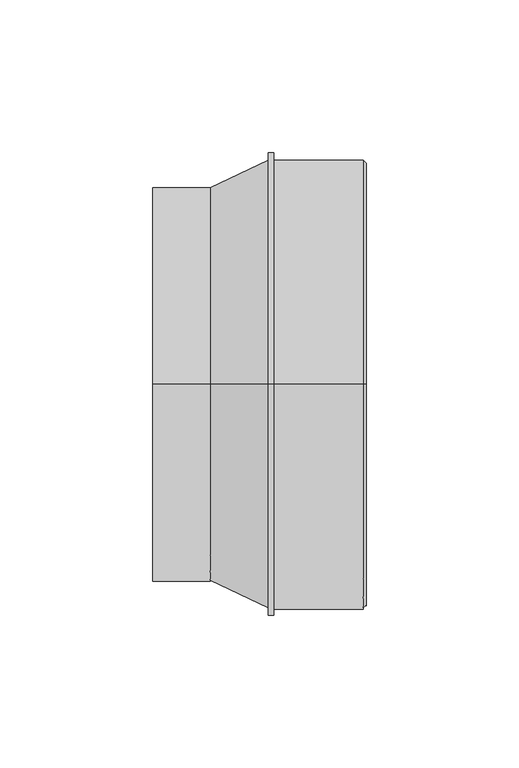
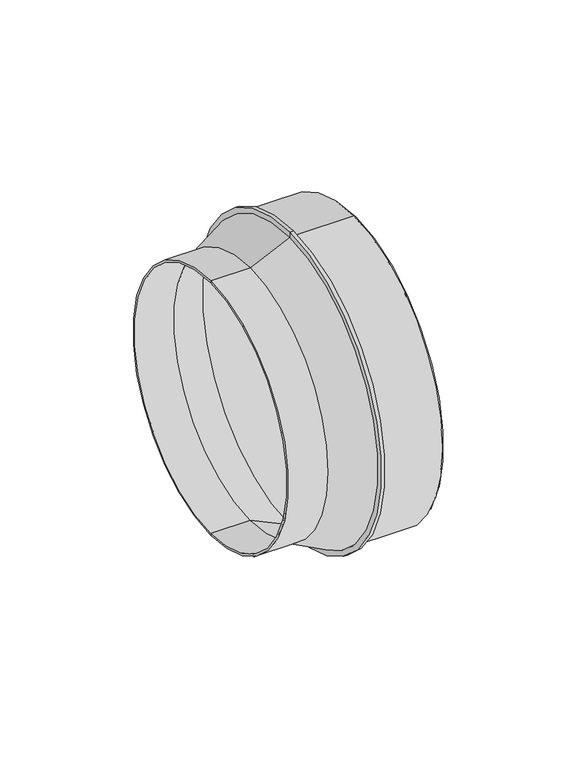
"""IFC4 building model written with IfcOpenShell, lengths in millimetres: duct fitting geometry, Renson_Healthbox 3_Reducer_Round_Exhaust Adapter 125-150 : 125-150."""

from ifc_helpers import new_model, si_unit, frame, origin, place, context, project, spatial, polyline, circle_curve, source, transform, mapped, element, save
from ifc_brep_helpers import plane_surface, cylinder_surface, revolved_surface, advanced_brep


def duct_fitting_cf8d5976(model_context):
    return source(origin(), model_context, "Body", "AdvancedBrep", [
        advanced_brep(
        [(37.9684639, 0.0, 76.25), (37.9684639, 0.0, -76.25), (37.9684639, 0.0, -73.75), (37.9684639, 0.0, 73.75), (39.7948775, 0.0, 76.25), (39.7948775, 0.0, -76.25), (39.7948775, 0.0, 73.75), (39.7948775, 0.0, -73.75), (18.9684639, 0.0, 63.7184639), (18.9684639, 0.0, -63.7184639), (37.9684639, 0.0, -72.75), (37.9684639, 0.0, 72.75), (0.0, 0.0, 63.7184639), (0.0, 0.0, -63.7184639), (0.0, 0.0, 64.7184639), (0.0, 0.0, -64.7184639), (18.9684639, 0.0, 64.7184639), (18.9684639, 0.0, -64.7184639), (68.9684639, 0.0, 73.75), (68.9684639, 0.0, -73.75), (69.9684639, 0.0, 72.75), (69.9684639, 0.0, -72.75)],
        [
            (0, 1, circle_curve(frame((37.9684639, 0.0, 0.0), z_axis=(-1.0, 0.0, 0.0), x_axis=(0.0, 0.0, -1.0)), 76.25)),
            (1, 2),
            (2, 3, circle_curve(frame((37.9684639, 0.0, 0.0), z_axis=(1.0, 0.0, 0.0), x_axis=(0.0, 0.0, -1.0)), 73.75)),
            (3, 0),
            (1, 0, circle_curve(frame((37.9684639, 0.0, 0.0), z_axis=(-1.0, 0.0, 0.0), x_axis=(0.0, 0.0, -1.0)), 76.25)),
            (3, 2, circle_curve(frame((37.9684639, 0.0, 0.0), z_axis=(1.0, 0.0, 0.0), x_axis=(0.0, 0.0, -1.0)), 73.75)),
            (4, 5, circle_curve(frame((39.7948775, 0.0, 0.0), z_axis=(-1.0, 0.0, 0.0), x_axis=(0.0, 0.0, -1.0)), 76.25)),
            (5, 1),
            (0, 4),
            (5, 4, circle_curve(frame((39.7948775, 0.0, 0.0), z_axis=(-1.0, 0.0, 0.0), x_axis=(0.0, 0.0, -1.0)), 76.25)),
            (6, 7, circle_curve(frame((39.7948775, 0.0, 0.0), z_axis=(-1.0, 0.0, 0.0), x_axis=(0.0, 0.0, -1.0)), 73.75)),
            (7, 5),
            (4, 6),
            (7, 6, circle_curve(frame((39.7948775, 0.0, 0.0), z_axis=(-1.0, 0.0, 0.0), x_axis=(0.0, 0.0, -1.0)), 73.75)),
            (8, 9, circle_curve(frame((18.9684639, 0.0, 0.0), z_axis=(-1.0, 0.0, 0.0), x_axis=(0.0, 0.0, -1.0)), 63.7184639)),
            (9, 10),
            (10, 11, circle_curve(frame((37.9684639, 0.0, 0.0), z_axis=(1.0, 0.0, 0.0), x_axis=(0.0, 0.0, -1.0)), 72.75)),
            (11, 8),
            (9, 8, circle_curve(frame((18.9684639, 0.0, 0.0), z_axis=(-1.0, 0.0, 0.0), x_axis=(0.0, 0.0, -1.0)), 63.7184639)),
            (11, 10, circle_curve(frame((37.9684639, 0.0, 0.0), z_axis=(1.0, 0.0, 0.0), x_axis=(0.0, 0.0, -1.0)), 72.75)),
            (12, 13, circle_curve(frame((0.0, 0.0, 0.0), z_axis=(-1.0, 0.0, 0.0), x_axis=(0.0, 0.0, -1.0)), 63.7184639)),
            (13, 9),
            (8, 12),
            (13, 12, circle_curve(frame((0.0, 0.0, 0.0), z_axis=(-1.0, 0.0, 0.0), x_axis=(0.0, 0.0, -1.0)), 63.7184639)),
            (14, 15, circle_curve(frame((0.0, 0.0, 0.0), z_axis=(-1.0, 0.0, 0.0), x_axis=(0.0, 0.0, -1.0)), 64.7184639)),
            (15, 13),
            (12, 14),
            (15, 14, circle_curve(frame((0.0, 0.0, 0.0), z_axis=(-1.0, 0.0, 0.0), x_axis=(0.0, 0.0, -1.0)), 64.7184639)),
            (16, 17, circle_curve(frame((18.9684639, 0.0, 0.0), z_axis=(-1.0, 0.0, 0.0), x_axis=(0.0, 0.0, -1.0)), 64.7184639)),
            (17, 15),
            (14, 16),
            (17, 16, circle_curve(frame((18.9684639, 0.0, 0.0), z_axis=(-1.0, 0.0, 0.0), x_axis=(0.0, 0.0, -1.0)), 64.7184639)),
            (2, 17),
            (16, 3),
            (18, 19, circle_curve(frame((68.9684639, 0.0, 0.0), z_axis=(-1.0, 0.0, 0.0), x_axis=(0.0, 0.0, -1.0)), 73.75)),
            (19, 7),
            (6, 18),
            (19, 18, circle_curve(frame((68.9684639, 0.0, 0.0), z_axis=(-1.0, 0.0, 0.0), x_axis=(0.0, 0.0, -1.0)), 73.75)),
            (20, 21, circle_curve(frame((69.9684639, 0.0, 0.0), z_axis=(-1.0, 0.0, 0.0), x_axis=(0.0, 0.0, -1.0)), 72.75)),
            (21, 19),
            (18, 20),
            (21, 20, circle_curve(frame((69.9684639, 0.0, 0.0), z_axis=(-1.0, 0.0, 0.0), x_axis=(0.0, 0.0, -1.0)), 72.75)),
            (10, 21),
            (20, 11),
        ],
        [
            plane_surface(frame((37.9684639, 0.0, 0.0), z_axis=(-1.0, 0.0, 0.0), x_axis=(0.0, 0.0, -1.0))),
            cylinder_surface(frame((121.1320079, 0.0, 0.0), z_axis=(1.0, 0.0, 0.0), x_axis=(0.0, 0.0, -1.0)), 76.25),
            plane_surface(frame((39.7948775, 0.0, 0.0), z_axis=(1.0, 0.0, 0.0), x_axis=(0.0, 0.0, -1.0))),
            revolved_surface(polyline([(37.9684639, 0.0, -72.75), (18.9684639, 0.0, -63.7184639)]), (121.1320079, 0.0, 0.0), (1.0, 0.0, 0.0)),
            revolved_surface(polyline([(18.968463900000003, 0.0, -63.7184639), (0.0, 0.0, -63.7184639)]), (121.1320079, 0.0, 0.0), (1.0, 0.0, 0.0)),
            plane_surface(frame((0.0, 0.0, 0.0), z_axis=(-1.0, 0.0, 0.0), x_axis=(0.0, 0.0, -1.0))),
            cylinder_surface(frame((121.1320079, 0.0, 0.0), z_axis=(1.0, 0.0, 0.0), x_axis=(0.0, 0.0, -1.0)), 64.7184639),
            revolved_surface(polyline([(18.9684639, 0.0, -64.7184639), (37.9684639, 0.0, -73.75)]), (121.1320079, 0.0, 0.0), (1.0, 0.0, 0.0)),
            cylinder_surface(frame((121.1320079, 0.0, 0.0), z_axis=(1.0, 0.0, 0.0), x_axis=(0.0, 0.0, -1.0)), 73.75),
            revolved_surface(polyline([(68.9684639, 0.0, -73.75), (69.9684639, 0.0, -72.75)]), (121.1320079, 0.0, 0.0), (1.0, 0.0, 0.0)),
            revolved_surface(polyline([(69.9684639, 0.0, -72.75), (37.9684639, 0.0, -72.75)]), (121.1320079, 0.0, 0.0), (1.0, 0.0, 0.0)),
        ],
        [
            (0, [[1, 2, 3, 4]]),
            (0, [[5, -4, 6, -2]]),
            (1, [[7, 8, -1, 9]]),
            (1, [[10, -9, -5, -8]]),
            (2, [[11, 12, -7, 13]]),
            (2, [[14, -13, -10, -12]]),
            (3, [[15, 16, 17, 18]]),
            (3, [[19, -18, 20, -16]]),
            (4, [[21, 22, -15, 23]]),
            (4, [[24, -23, -19, -22]]),
            (5, [[25, 26, -21, 27]]),
            (5, [[28, -27, -24, -26]]),
            (6, [[29, 30, -25, 31]]),
            (6, [[32, -31, -28, -30]]),
            (7, [[-3, 33, -29, 34]]),
            (7, [[-6, -34, -32, -33]]),
            (8, [[35, 36, -11, 37]]),
            (8, [[38, -37, -14, -36]]),
            (9, [[39, 40, -35, 41]]),
            (9, [[42, -41, -38, -40]]),
            (10, [[-17, 43, -39, 44]]),
            (10, [[-20, -44, -42, -43]]),
        ],
    ),
    ])


if __name__ == "__main__":
    model = new_model("IFC4")
    model_context = context("Model", 3, world=origin())
    ifc_project = project(units=[si_unit("LENGTHUNIT", "METRE", prefix="MILLI")], contexts=[model_context])
    site = spatial("IfcSite", under=ifc_project)
    building = spatial("IfcBuilding", under=site)
    placement = place(None, origin())
    duct_fitting_shape = duct_fitting_cf8d5976(model_context)
    element("IfcDuctFitting", 1, ObjectType="Renson_Healthbox 3_Reducer_Round_Exhaust Adapter 125-150 : 125-150", at=placement, inside=building, context=model_context, shape_type="MappedRepresentation", body=[
        mapped(duct_fitting_shape, transform((0.0, 0.0, 0.0), x_axis=(1.0, 0.0, 0.0), y_axis=(0.0, 1.0, 0.0), z_axis=(0.0, 0.0, 1.0))),
    ])
    save(model, "model.ifc")
